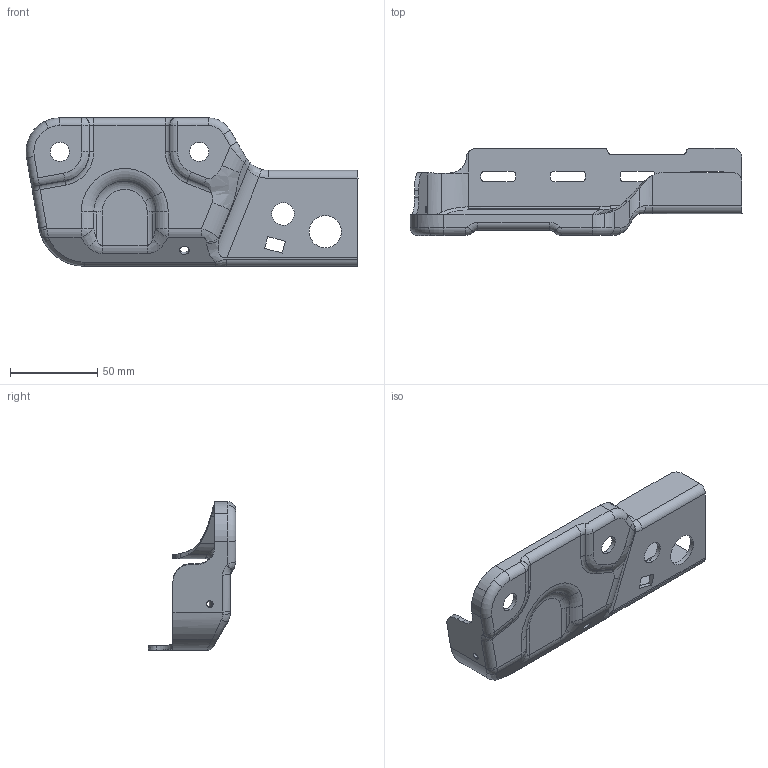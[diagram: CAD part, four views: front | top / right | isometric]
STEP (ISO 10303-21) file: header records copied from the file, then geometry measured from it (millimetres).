
FILE_DESCRIPTION(('CATIA V5 STEP Exchange'),'2;1');
FILE_NAME('C:\Users\nobody\Desktop\SHT0012267_C.stp','2024-03-05T02:07:55+00:00',('none'),('none'),'CATIA Version 5 Release 20 GA (IN-10)','CATIA V5 STEP AP203 Edition 2','none');
FILE_SCHEMA(('AP203_CONFIGURATION_CONTROLLED_3D_DESIGN_OF_MECHANICAL_PARTS_AND_ASSEMBLIES_MIM_LF { 1 0 10303 403 2 1 2}'));
Length unit declared in the file: millimetre
Products named in the file (1): SHT0012267
Bounding box: 190.69 x 50.14 x 85.19 mm (x, y, z)
Volume: 55847.5 mm3; surface area: 47222.6 mm2
Topology: 1 solids, 1 shells, 326 faces, 859 edges, 529 vertices
Faces by surface type: cylinder 159, plane 61, bspline 58, torus 24, revolution 12, sphere 6, extrusion 6
Entity records: 27206 total; most frequent: CARTESIAN_POINT 19992, ORIENTED_EDGE 1706, DIRECTION 1062, EDGE_CURVE 853, VERTEX_POINT 529, AXIS2_PLACEMENT_3D 488, EDGE_LOOP 348, ADVANCED_FACE 326
